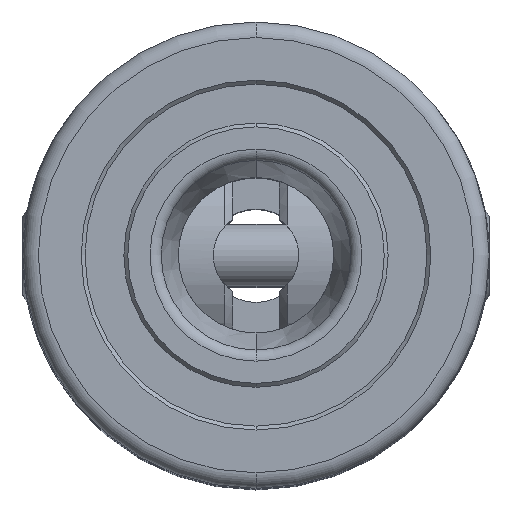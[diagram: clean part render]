
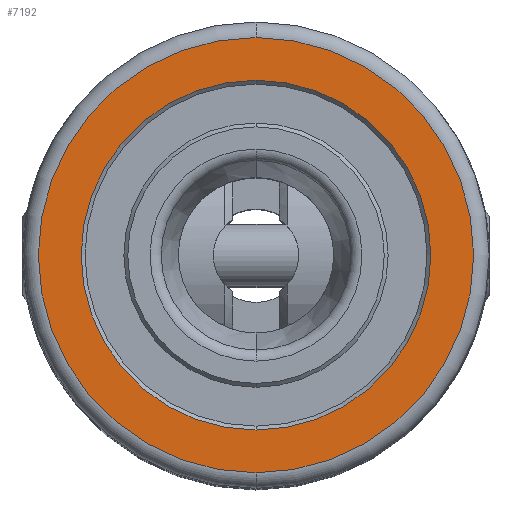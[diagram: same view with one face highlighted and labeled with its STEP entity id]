
A CAD part, top view. The second image highlights one B-rep face of the part: STEP entity #7192.
In plain terms, the highlighted planar face has unit normal (0, 0, 1).
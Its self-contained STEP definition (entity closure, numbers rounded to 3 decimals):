
#199 = CIRCLE ( 'NONE', #15750, 22.5 ) ;
#220 = ORIENTED_EDGE ( 'NONE', *, *, #8060, .T. ) ;
#855 = VERTEX_POINT ( 'NONE', #12007 ) ;
#949 = EDGE_CURVE ( 'NONE', #7907, #855, #199, .T. ) ;
#1186 = AXIS2_PLACEMENT_3D ( 'NONE', #9102, #3182, #10395 ) ;
#1598 = DIRECTION ( 'NONE',  ( 0., 0., 1. ) ) ;
#1630 = ORIENTED_EDGE ( 'NONE', *, *, #949, .T. ) ;
#1665 = FACE_OUTER_BOUND ( 'NONE', #7597, .T. ) ;
#3182 = DIRECTION ( 'NONE',  ( 0., 0., 1. ) ) ;
#3632 = VERTEX_POINT ( 'NONE', #8590 ) ;
#3816 = CIRCLE ( 'NONE', #8990, 28. ) ;
#4087 = DIRECTION ( 'NONE',  ( 0., -1., 0. ) ) ;
#4189 = DIRECTION ( 'NONE',  ( 0., -1., 0. ) ) ;
#4221 = EDGE_CURVE ( 'NONE', #855, #7907, #9331, .T. ) ;
#4337 = PLANE ( 'NONE',  #5409 ) ;
#4739 = ORIENTED_EDGE ( 'NONE', *, *, #4221, .T. ) ;
#5409 = AXIS2_PLACEMENT_3D ( 'NONE', #13067, #7899, #4087 ) ;
#7192 = ADVANCED_FACE ( 'NONE', ( #1665, #11540 ), #4337, .T. ) ;
#7597 = EDGE_LOOP ( 'NONE', ( #220, #8605 ) ) ;
#7696 = CARTESIAN_POINT ( 'NONE',  ( 0., 0., 125. ) ) ;
#7899 = DIRECTION ( 'NONE',  ( 0., 0., 1. ) ) ;
#7907 = VERTEX_POINT ( 'NONE', #8166 ) ;
#8030 = DIRECTION ( 'NONE',  ( 0., 1., 0. ) ) ;
#8060 = EDGE_CURVE ( 'NONE', #3632, #11312, #3816, .T. ) ;
#8166 = CARTESIAN_POINT ( 'NONE',  ( 0., 22.5, 125. ) ) ;
#8590 = CARTESIAN_POINT ( 'NONE',  ( 0., -28., 125. ) ) ;
#8605 = ORIENTED_EDGE ( 'NONE', *, *, #15436, .T. ) ;
#8990 = AXIS2_PLACEMENT_3D ( 'NONE', #15093, #1598, #4189 ) ;
#9086 = DIRECTION ( 'NONE',  ( 0., 0., -1. ) ) ;
#9102 = CARTESIAN_POINT ( 'NONE',  ( 0., 0., 125. ) ) ;
#9162 = CARTESIAN_POINT ( 'NONE',  ( 0., 28., 125. ) ) ;
#9331 = CIRCLE ( 'NONE', #13454, 22.5 ) ;
#10395 = DIRECTION ( 'NONE',  ( 0., -1., 0. ) ) ;
#11218 = EDGE_LOOP ( 'NONE', ( #4739, #1630 ) ) ;
#11312 = VERTEX_POINT ( 'NONE', #9162 ) ;
#11504 = DIRECTION ( 'NONE',  ( 0., 1., 0. ) ) ;
#11540 = FACE_BOUND ( 'NONE', #11218, .T. ) ;
#12007 = CARTESIAN_POINT ( 'NONE',  ( 0., -22.5, 125. ) ) ;
#12535 = CIRCLE ( 'NONE', #1186, 28. ) ;
#13067 = CARTESIAN_POINT ( 'NONE',  ( 10., 0., 125. ) ) ;
#13454 = AXIS2_PLACEMENT_3D ( 'NONE', #14000, #9086, #8030 ) ;
#13911 = DIRECTION ( 'NONE',  ( 0., 0., -1. ) ) ;
#14000 = CARTESIAN_POINT ( 'NONE',  ( 0., 0., 125. ) ) ;
#15093 = CARTESIAN_POINT ( 'NONE',  ( 0., 0., 125. ) ) ;
#15436 = EDGE_CURVE ( 'NONE', #11312, #3632, #12535, .T. ) ;
#15750 = AXIS2_PLACEMENT_3D ( 'NONE', #7696, #13911, #11504 ) ;
